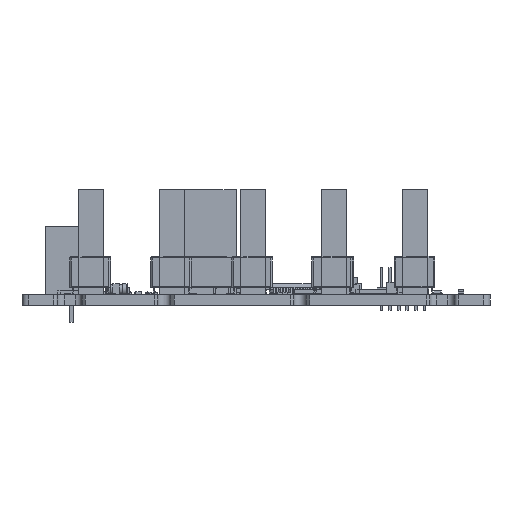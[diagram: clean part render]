
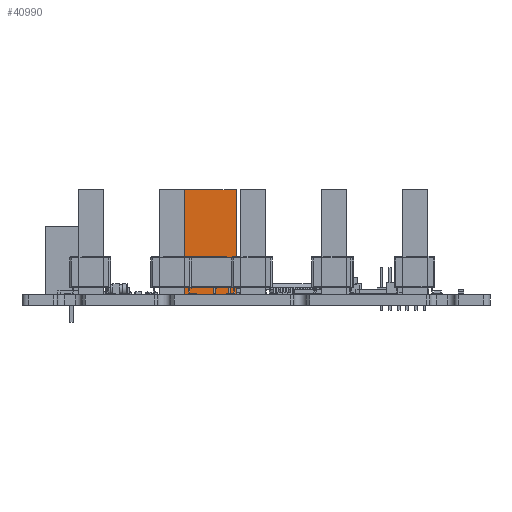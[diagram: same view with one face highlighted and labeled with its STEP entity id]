
A CAD part, left-side view. The second image highlights one B-rep face of the part: STEP entity #40990.
In plain terms, the highlighted planar face has unit normal (-1, 0, 0).
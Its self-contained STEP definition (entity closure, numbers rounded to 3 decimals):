
#40892 = EDGE_CURVE('',#40893,#40895,#40897,.T.);
#40893 = VERTEX_POINT('',#40894);
#40894 = CARTESIAN_POINT('',(58.245,47.345,0.));
#40895 = VERTEX_POINT('',#40896);
#40896 = CARTESIAN_POINT('',(58.245,47.345,15.5
    ));
#40897 = LINE('',#40898,#40899);
#40898 = CARTESIAN_POINT('',(58.245,47.345,0.));
#40899 = VECTOR('',#40900,1.);
#40900 = DIRECTION('',(0.,0.,1.));
#40965 = VERTEX_POINT('',#40966);
#40966 = CARTESIAN_POINT('',(58.245,37.445,15.5
    ));
#40972 = EDGE_CURVE('',#40973,#40965,#40975,.T.);
#40973 = VERTEX_POINT('',#40974);
#40974 = CARTESIAN_POINT('',(58.245,37.445,0.));
#40975 = LINE('',#40976,#40977);
#40976 = CARTESIAN_POINT('',(58.245,37.445,0.));
#40977 = VECTOR('',#40978,1.);
#40978 = DIRECTION('',(0.,0.,1.));
#40990 = ADVANCED_FACE('',(#40991),#41007,.T.);
#40991 = FACE_BOUND('',#40992,.T.);
#40992 = EDGE_LOOP('',(#40993,#40994,#41000,#41001));
#40993 = ORIENTED_EDGE('',*,*,#40972,.T.);
#40994 = ORIENTED_EDGE('',*,*,#40995,.T.);
#40995 = EDGE_CURVE('',#40965,#40895,#40996,.T.);
#40996 = LINE('',#40997,#40998);
#40997 = CARTESIAN_POINT('',(58.245,37.445,15.5
    ));
#40998 = VECTOR('',#40999,1.);
#40999 = DIRECTION('',(0.,1.,0.));
#41000 = ORIENTED_EDGE('',*,*,#40892,.F.);
#41001 = ORIENTED_EDGE('',*,*,#41002,.F.);
#41002 = EDGE_CURVE('',#40973,#40893,#41003,.T.);
#41003 = LINE('',#41004,#41005);
#41004 = CARTESIAN_POINT('',(58.245,37.445,0.));
#41005 = VECTOR('',#41006,1.);
#41006 = DIRECTION('',(0.,1.,0.));
#41007 = PLANE('',#41008);
#41008 = AXIS2_PLACEMENT_3D('',#41009,#41010,#41011);
#41009 = CARTESIAN_POINT('',(58.245,37.445,0.));
#41010 = DIRECTION('',(-1.,0.,0.));
#41011 = DIRECTION('',(0.,1.,0.));
